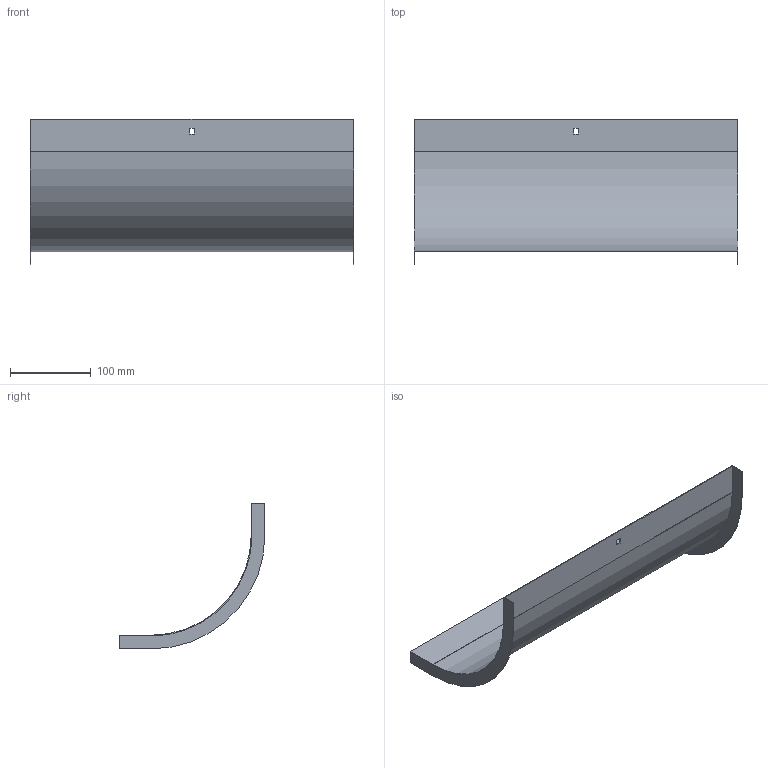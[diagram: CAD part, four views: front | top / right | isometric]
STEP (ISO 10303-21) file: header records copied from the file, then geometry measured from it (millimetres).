
FILE_DESCRIPTION (( 'STEP AP214' ), '1' );
FILE_NAME ('OS9_400.step', '2025-07-16T09:17:34', ( '' ), ( '' ), 'SwSTEP 2.0', 'SolidWorks 2023', '' );
FILE_SCHEMA (( 'AUTOMOTIVE_DESIGN' ));
Length unit declared in the file: millimetre
Products named in the file (1): OS9_400
Bounding box: 402 x 181 x 181 mm (x, y, z)
Volume: 119938.1 mm3; surface area: 241397.6 mm2
Topology: 1 solids, 1 shells, 26 faces, 72 edges, 48 vertices
Faces by surface type: plane 22, cylinder 4
Entity records: 855 total; most frequent: CARTESIAN_POINT 147, ORIENTED_EDGE 144, DIRECTION 134, EDGE_CURVE 72, LINE 64, VECTOR 64, VERTEX_POINT 48, AXIS2_PLACEMENT_3D 35
